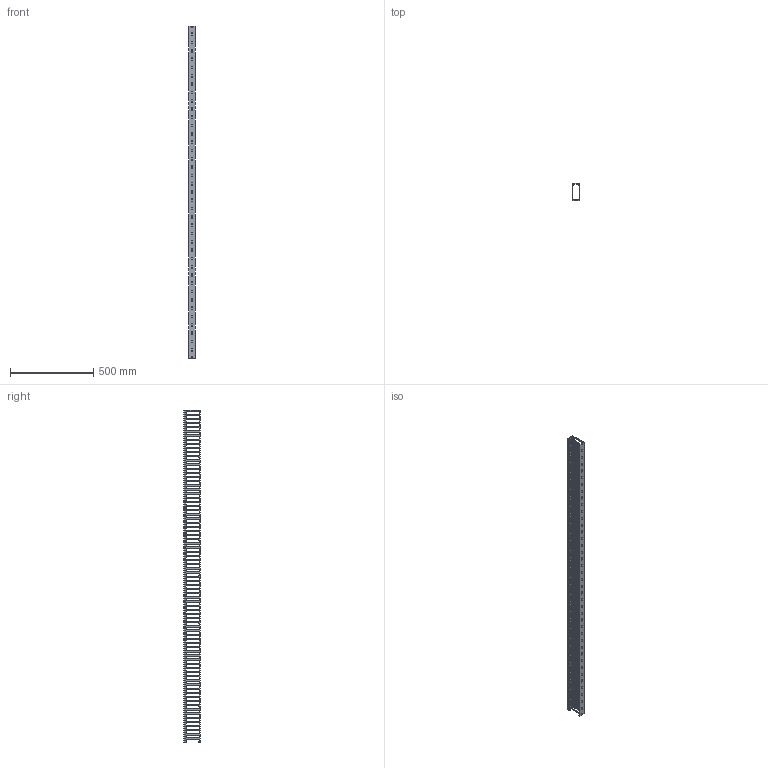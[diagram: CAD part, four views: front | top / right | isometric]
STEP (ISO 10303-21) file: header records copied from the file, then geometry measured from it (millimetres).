
FILE_DESCRIPTION (( 'STEP AP214' ), '1' );
FILE_NAME ('KD-410-20-LL.STEP', '2020-02-19T01:38:23', ( '' ), ( '' ), 'SwSTEP 2.0', 'SolidWorks 2018', '' );
FILE_SCHEMA (( 'AUTOMOTIVE_DESIGN' ));
Length unit declared in the file: millimetre
Products named in the file (3): KD-410-20-LL-body; KD-410-20-LL; KD-44-20-cover
Assembly tree (2 placements, depth 2):
  KD-410-20-LL
    KD-410-20-LL-body
    KD-44-20-cover
Bounding box: 40 x 100.17 x 2000 mm (x, y, z)
Volume: 674800.2 mm3; surface area: 878038.2 mm2
Topology: 2 solids, 2 shells, 1547 faces, 4629 edges, 3086 vertices
Faces by surface type: cylinder 797, plane 750
Entity records: 53455 total; most frequent: DIRECTION 9327, CARTESIAN_POINT 9267, ORIENTED_EDGE 9258, EDGE_CURVE 4629, AXIS2_PLACEMENT_3D 3146, VERTEX_POINT 3086, VECTOR 3035, LINE 3035
